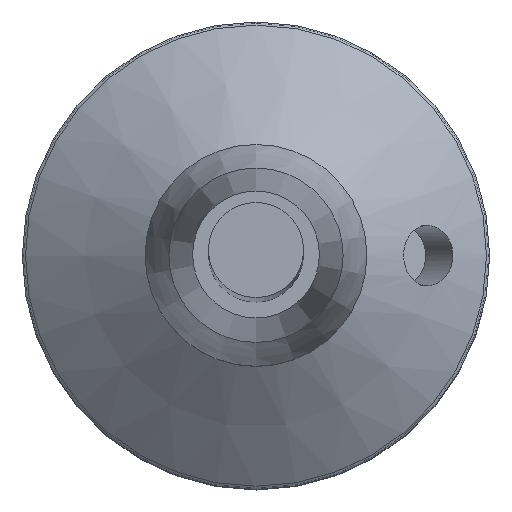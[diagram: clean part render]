
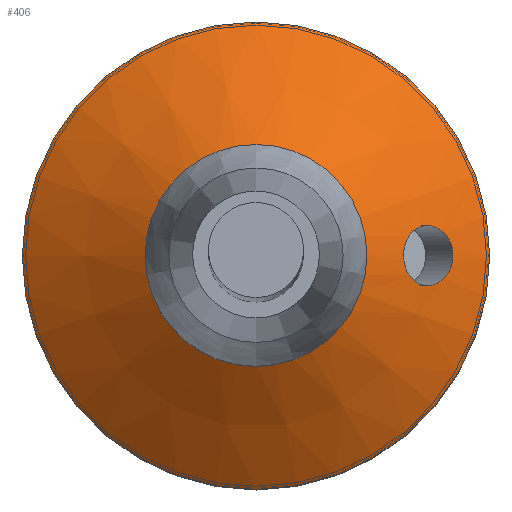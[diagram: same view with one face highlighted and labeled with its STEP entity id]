
A CAD part, top view. The second image highlights one B-rep face of the part: STEP entity #406.
In plain terms, the highlighted conical face has half-angle 55 degrees and reference radius 10.875 mm.
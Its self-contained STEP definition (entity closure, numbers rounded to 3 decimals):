
#43=FACE_BOUND('',#110,.T.);
#50=B_SPLINE_CURVE_WITH_KNOTS('',3,(#744,#745,#746,#747,#748,#749,#750,
#751,#752,#753,#754,#755,#756,#757,#758,#759,#760,#761,#762,#763,#764,#765,
#766,#767,#768,#769,#770,#771,#772,#773,#774,#775,#776,#777),
 .UNSPECIFIED.,.T.,.F.,(4,2,2,2,2,2,2,2,2,2,2,2,2,2,2,2,4),(0.,0.079,
0.157,0.236,0.314,0.393,
0.471,0.55,0.628,0.693,
0.758,0.823,0.887,0.952,
1.017,1.082,1.147),.UNSPECIFIED.);
#65=CONICAL_SURFACE('',#496,10.875,0.96);
#78=FACE_OUTER_BOUND('',#109,.T.);
#109=EDGE_LOOP('',(#313,#314,#315,#316));
#110=EDGE_LOOP('',(#317));
#145=LINE('',#741,#164);
#164=VECTOR('',#592,10.875);
#186=CIRCLE('',#497,14.75);
#187=CIRCLE('',#498,7.);
#215=VERTEX_POINT('',#738);
#216=VERTEX_POINT('',#740);
#217=VERTEX_POINT('',#743);
#251=EDGE_CURVE('',#215,#215,#186,.T.);
#252=EDGE_CURVE('',#215,#216,#145,.T.);
#253=EDGE_CURVE('',#216,#216,#187,.T.);
#254=EDGE_CURVE('',#217,#217,#50,.T.);
#313=ORIENTED_EDGE('',*,*,#251,.F.);
#314=ORIENTED_EDGE('',*,*,#252,.T.);
#315=ORIENTED_EDGE('',*,*,#253,.T.);
#316=ORIENTED_EDGE('',*,*,#252,.F.);
#317=ORIENTED_EDGE('',*,*,#254,.T.);
#406=ADVANCED_FACE('',(#78,#43),#65,.T.);
#496=AXIS2_PLACEMENT_3D('',#737,#588,#589);
#497=AXIS2_PLACEMENT_3D('',#739,#590,#591);
#498=AXIS2_PLACEMENT_3D('',#742,#593,#594);
#588=DIRECTION('center_axis',(0.,0.,1.));
#589=DIRECTION('ref_axis',(1.,0.,0.));
#590=DIRECTION('center_axis',(0.,0.,1.));
#591=DIRECTION('ref_axis',(1.,0.,0.));
#592=DIRECTION('',(0.819,0.,-0.574));
#593=DIRECTION('center_axis',(0.,0.,1.));
#594=DIRECTION('ref_axis',(1.,0.,0.));
#737=CARTESIAN_POINT('Origin',(0.,0.,-38.614));
#738=CARTESIAN_POINT('',(-14.75,0.,-35.9));
#739=CARTESIAN_POINT('Origin',(0.,0.,-35.9));
#740=CARTESIAN_POINT('',(-7.,0.,-41.327));
#741=CARTESIAN_POINT('',(-10.875,0.,-38.614));
#742=CARTESIAN_POINT('Origin',(0.,0.,-41.327));
#743=CARTESIAN_POINT('',(9.319,0.,-39.703));
#744=CARTESIAN_POINT('Ctrl Pts',(10.598,-1.88,-38.692));
#745=CARTESIAN_POINT('Ctrl Pts',(10.809,-1.918,-38.542));
#746=CARTESIAN_POINT('Ctrl Pts',(11.043,-1.901,-38.383));
#747=CARTESIAN_POINT('Ctrl Pts',(11.486,-1.746,-38.094));
#748=CARTESIAN_POINT('Ctrl Pts',(11.696,-1.608,-37.963));
#749=CARTESIAN_POINT('Ctrl Pts',(12.034,-1.265,-37.757));
#750=CARTESIAN_POINT('Ctrl Pts',(12.183,-1.041,-37.669));
#751=CARTESIAN_POINT('Ctrl Pts',(12.381,-0.539,-37.552));
#752=CARTESIAN_POINT('Ctrl Pts',(12.431,-0.262,-37.524));
#753=CARTESIAN_POINT('Ctrl Pts',(12.431,0.262,-37.524));
#754=CARTESIAN_POINT('Ctrl Pts',(12.381,0.539,-37.552));
#755=CARTESIAN_POINT('Ctrl Pts',(12.183,1.041,-37.669));
#756=CARTESIAN_POINT('Ctrl Pts',(12.034,1.265,-37.757));
#757=CARTESIAN_POINT('Ctrl Pts',(11.696,1.608,-37.963));
#758=CARTESIAN_POINT('Ctrl Pts',(11.486,1.746,-38.094));
#759=CARTESIAN_POINT('Ctrl Pts',(11.043,1.901,-38.383));
#760=CARTESIAN_POINT('Ctrl Pts',(10.809,1.918,-38.542));
#761=CARTESIAN_POINT('Ctrl Pts',(10.424,1.85,-38.816));
#762=CARTESIAN_POINT('Ctrl Pts',(10.244,1.778,-38.949));
#763=CARTESIAN_POINT('Ctrl Pts',(9.922,1.556,-39.196));
#764=CARTESIAN_POINT('Ctrl Pts',(9.781,1.407,-39.31));
#765=CARTESIAN_POINT('Ctrl Pts',(9.563,1.08,-39.491));
#766=CARTESIAN_POINT('Ctrl Pts',(9.47,0.88,-39.571));
#767=CARTESIAN_POINT('Ctrl Pts',(9.348,0.448,-39.677));
#768=CARTESIAN_POINT('Ctrl Pts',(9.319,0.216,-39.703));
#769=CARTESIAN_POINT('Ctrl Pts',(9.319,-0.216,-39.703));
#770=CARTESIAN_POINT('Ctrl Pts',(9.348,-0.448,-39.677));
#771=CARTESIAN_POINT('Ctrl Pts',(9.47,-0.88,-39.571));
#772=CARTESIAN_POINT('Ctrl Pts',(9.563,-1.08,-39.491));
#773=CARTESIAN_POINT('Ctrl Pts',(9.781,-1.407,-39.31));
#774=CARTESIAN_POINT('Ctrl Pts',(9.922,-1.556,-39.196));
#775=CARTESIAN_POINT('Ctrl Pts',(10.244,-1.778,-38.949));
#776=CARTESIAN_POINT('Ctrl Pts',(10.424,-1.85,-38.816));
#777=CARTESIAN_POINT('Ctrl Pts',(10.598,-1.88,-38.692));
